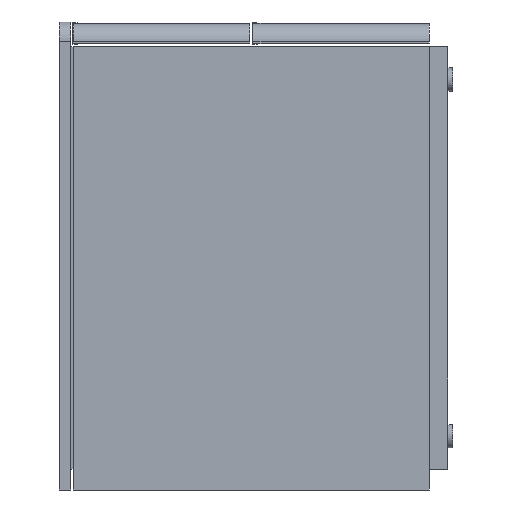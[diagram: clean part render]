
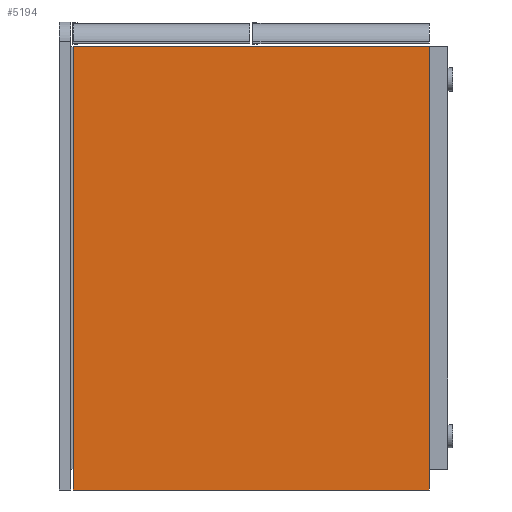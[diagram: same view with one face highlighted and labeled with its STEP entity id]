
A CAD part, left-side view. The second image highlights one B-rep face of the part: STEP entity #5194.
In plain terms, the highlighted planar face has unit normal (-1, 0, 0).
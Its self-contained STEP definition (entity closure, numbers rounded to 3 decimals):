
#137 = DIRECTION ( 'NONE',  ( 0., -1., 0. ) ) ;
#519 = CARTESIAN_POINT ( 'NONE',  ( -299.5, -191.75, 238.75 ) ) ;
#1068 = VERTEX_POINT ( 'NONE', #5944 ) ;
#1763 = CARTESIAN_POINT ( 'NONE',  ( -299.5, 191.75, 238.75 ) ) ;
#1943 = FACE_OUTER_BOUND ( 'NONE', #3706, .T. ) ;
#1980 = CARTESIAN_POINT ( 'NONE',  ( -299.5, 191.75, -238.75 ) ) ;
#2450 = CARTESIAN_POINT ( 'NONE',  ( -299.5, 191.75, 238.75 ) ) ;
#2721 = DIRECTION ( 'NONE',  ( 0., 0., -1. ) ) ;
#2999 = VECTOR ( 'NONE', #5297, 1000. ) ;
#3364 = EDGE_CURVE ( 'NONE', #3571, #3932, #4386, .T. ) ;
#3571 = VERTEX_POINT ( 'NONE', #4465 ) ;
#3606 = VECTOR ( 'NONE', #6182, 1000. ) ;
#3695 = VECTOR ( 'NONE', #2721, 1000. ) ;
#3706 = EDGE_LOOP ( 'NONE', ( #6992, #5722, #3834, #6823 ) ) ;
#3803 = EDGE_CURVE ( 'NONE', #1068, #4752, #6903, .T. ) ;
#3834 = ORIENTED_EDGE ( 'NONE', *, *, #3364, .F. ) ;
#3932 = VERTEX_POINT ( 'NONE', #7006 ) ;
#4386 = LINE ( 'NONE', #1763, #7094 ) ;
#4465 = CARTESIAN_POINT ( 'NONE',  ( -299.5, 191.75, 238.75 ) ) ;
#4511 = AXIS2_PLACEMENT_3D ( 'NONE', #2450, #6392, #6318 ) ;
#4678 = CARTESIAN_POINT ( 'NONE',  ( -299.5, 191.75, 238.75 ) ) ;
#4752 = VERTEX_POINT ( 'NONE', #6590 ) ;
#5106 = EDGE_CURVE ( 'NONE', #3571, #1068, #5769, .T. ) ;
#5194 = ADVANCED_FACE ( 'NONE', ( #1943 ), #5734, .F. ) ;
#5297 = DIRECTION ( 'NONE',  ( 0., 0., -1. ) ) ;
#5496 = LINE ( 'NONE', #519, #3695 ) ;
#5722 = ORIENTED_EDGE ( 'NONE', *, *, #6170, .F. ) ;
#5734 = PLANE ( 'NONE',  #4511 ) ;
#5769 = LINE ( 'NONE', #4678, #2999 ) ;
#5944 = CARTESIAN_POINT ( 'NONE',  ( -299.5, 191.75, -238.75 ) ) ;
#6170 = EDGE_CURVE ( 'NONE', #3932, #4752, #5496, .T. ) ;
#6182 = DIRECTION ( 'NONE',  ( 0., -1., 0. ) ) ;
#6318 = DIRECTION ( 'NONE',  ( 0., 1., 0. ) ) ;
#6392 = DIRECTION ( 'NONE',  ( 1., 0., 0. ) ) ;
#6590 = CARTESIAN_POINT ( 'NONE',  ( -299.5, -191.75, -238.75 ) ) ;
#6823 = ORIENTED_EDGE ( 'NONE', *, *, #5106, .T. ) ;
#6903 = LINE ( 'NONE', #1980, #3606 ) ;
#6992 = ORIENTED_EDGE ( 'NONE', *, *, #3803, .T. ) ;
#7006 = CARTESIAN_POINT ( 'NONE',  ( -299.5, -191.75, 238.75 ) ) ;
#7094 = VECTOR ( 'NONE', #137, 1000. ) ;
